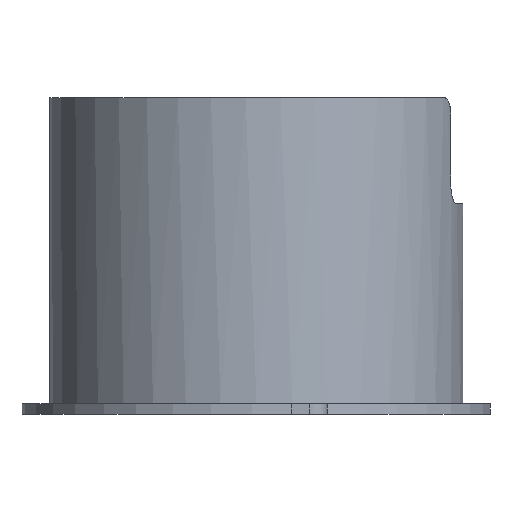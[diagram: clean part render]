
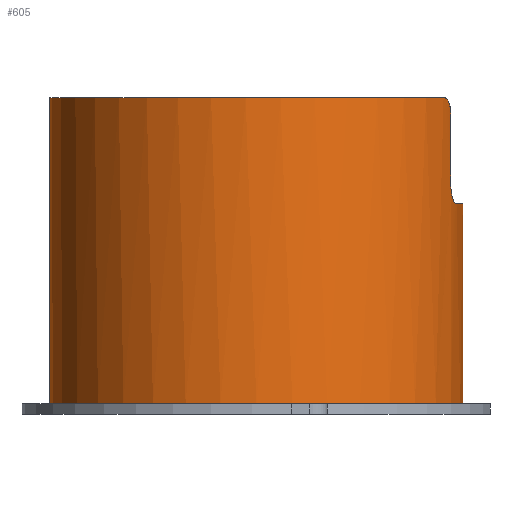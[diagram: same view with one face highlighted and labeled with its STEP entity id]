
A CAD part, front view. The second image highlights one B-rep face of the part: STEP entity #605.
In plain terms, the highlighted cylindrical face has radius 11.7 mm (diameter 23.4 mm), a full revolution.
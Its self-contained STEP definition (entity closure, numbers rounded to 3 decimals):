
#20=B_SPLINE_CURVE_WITH_KNOTS('',3,(#917,#918,#919,#920,#921),
 .UNSPECIFIED.,.F.,.F.,(4,1,4),(0.,0.001,0.002),
 .UNSPECIFIED.);
#21=B_SPLINE_CURVE_WITH_KNOTS('',3,(#925,#926,#927,#928,#929),
 .UNSPECIFIED.,.F.,.F.,(4,1,4),(0.,0.001,0.002),
 .UNSPECIFIED.);
#22=B_SPLINE_CURVE_WITH_KNOTS('',3,(#933,#934,#935,#936,#937),
 .UNSPECIFIED.,.F.,.F.,(4,1,4),(0.,0.001,0.002),
 .UNSPECIFIED.);
#23=B_SPLINE_CURVE_WITH_KNOTS('',3,(#941,#942,#943,#944,#945),
 .UNSPECIFIED.,.F.,.F.,(4,1,4),(0.,0.001,0.002),
 .UNSPECIFIED.);
#52=CIRCLE('',#654,11.7);
#55=CIRCLE('',#659,11.7);
#56=CIRCLE('',#660,11.7);
#89=ORIENTED_EDGE('',*,*,#258,.T.);
#90=ORIENTED_EDGE('',*,*,#267,.T.);
#91=ORIENTED_EDGE('',*,*,#268,.F.);
#92=ORIENTED_EDGE('',*,*,#269,.T.);
#93=ORIENTED_EDGE('',*,*,#270,.T.);
#94=ORIENTED_EDGE('',*,*,#271,.T.);
#95=ORIENTED_EDGE('',*,*,#272,.F.);
#96=ORIENTED_EDGE('',*,*,#273,.T.);
#97=ORIENTED_EDGE('',*,*,#274,.F.);
#258=EDGE_CURVE('',#348,#347,#52,.T.);
#267=EDGE_CURVE('',#347,#356,#20,.T.);
#268=EDGE_CURVE('',#357,#356,#408,.F.);
#269=EDGE_CURVE('',#357,#358,#21,.T.);
#270=EDGE_CURVE('',#358,#359,#55,.F.);
#271=EDGE_CURVE('',#359,#360,#22,.T.);
#272=EDGE_CURVE('',#361,#360,#409,.T.);
#273=EDGE_CURVE('',#361,#348,#23,.T.);
#274=EDGE_CURVE('',#362,#362,#56,.T.);
#347=VERTEX_POINT('',#897);
#348=VERTEX_POINT('',#899);
#356=VERTEX_POINT('',#922);
#357=VERTEX_POINT('',#924);
#358=VERTEX_POINT('',#930);
#359=VERTEX_POINT('',#932);
#360=VERTEX_POINT('',#938);
#361=VERTEX_POINT('',#940);
#362=VERTEX_POINT('',#947);
#408=LINE('',#923,#470);
#409=LINE('',#939,#471);
#470=VECTOR('',#739,1000.);
#471=VECTOR('',#742,1000.);
#520=EDGE_LOOP('',(#89,#90,#91,#92,#93,#94,#95,#96));
#521=EDGE_LOOP('',(#97));
#556=FACE_BOUND('',#520,.T.);
#557=FACE_BOUND('',#521,.T.);
#590=CYLINDRICAL_SURFACE('',#658,11.7);
#605=ADVANCED_FACE('',(#556,#557),#590,.T.);
#654=AXIS2_PLACEMENT_3D('',#898,#723,#724);
#658=AXIS2_PLACEMENT_3D('',#916,#737,#738);
#659=AXIS2_PLACEMENT_3D('',#931,#740,#741);
#660=AXIS2_PLACEMENT_3D('',#946,#743,#744);
#723=DIRECTION('',(0.,0.,-1.));
#724=DIRECTION('',(-1.,0.,0.));
#737=DIRECTION('',(0.,0.,-1.));
#738=DIRECTION('',(-1.,0.,0.));
#739=DIRECTION('',(0.,0.,-1.));
#740=DIRECTION('',(0.,0.,1.));
#741=DIRECTION('',(1.,0.,0.));
#742=DIRECTION('',(0.,0.,-1.));
#743=DIRECTION('',(0.,0.,-1.));
#744=DIRECTION('',(-1.,0.,0.));
#897=CARTESIAN_POINT('',(10.578,5.,17.9));
#898=CARTESIAN_POINT('',(0.,0.,17.9));
#899=CARTESIAN_POINT('',(10.578,-5.,17.9));
#916=CARTESIAN_POINT('',(0.,0.,23.));
#917=CARTESIAN_POINT('',(10.578,5.,17.9));
#918=CARTESIAN_POINT('',(10.696,4.751,17.9));
#919=CARTESIAN_POINT('',(10.909,4.245,17.71));
#920=CARTESIAN_POINT('',(10.995,4.,17.176));
#921=CARTESIAN_POINT('',(10.995,4.,16.9));
#922=CARTESIAN_POINT('',(10.995,4.,16.9));
#923=CARTESIAN_POINT('',(10.995,4.,23.));
#924=CARTESIAN_POINT('',(10.995,4.,12.9));
#925=CARTESIAN_POINT('',(10.995,4.,12.9));
#926=CARTESIAN_POINT('',(10.995,4.,12.63));
#927=CARTESIAN_POINT('',(11.081,3.771,12.108));
#928=CARTESIAN_POINT('',(11.24,3.261,11.9));
#929=CARTESIAN_POINT('',(11.309,3.,11.9));
#930=CARTESIAN_POINT('',(11.309,3.,11.9));
#931=CARTESIAN_POINT('',(0.,0.,11.9));
#932=CARTESIAN_POINT('',(11.309,-3.,11.9));
#933=CARTESIAN_POINT('',(11.309,-3.,11.9));
#934=CARTESIAN_POINT('',(11.24,-3.261,11.9));
#935=CARTESIAN_POINT('',(11.082,-3.77,12.107));
#936=CARTESIAN_POINT('',(10.995,-4.,12.629));
#937=CARTESIAN_POINT('',(10.995,-4.,12.9));
#938=CARTESIAN_POINT('',(10.995,-4.,12.9));
#939=CARTESIAN_POINT('',(10.995,-4.,23.));
#940=CARTESIAN_POINT('',(10.995,-4.,16.9));
#941=CARTESIAN_POINT('',(10.995,-4.,16.9));
#942=CARTESIAN_POINT('',(10.995,-4.,17.176));
#943=CARTESIAN_POINT('',(10.91,-4.243,17.708));
#944=CARTESIAN_POINT('',(10.695,-4.751,17.9));
#945=CARTESIAN_POINT('',(10.578,-5.,17.9));
#946=CARTESIAN_POINT('',(0.,0.,0.6));
#947=CARTESIAN_POINT('',(-11.7,0.,0.6));
